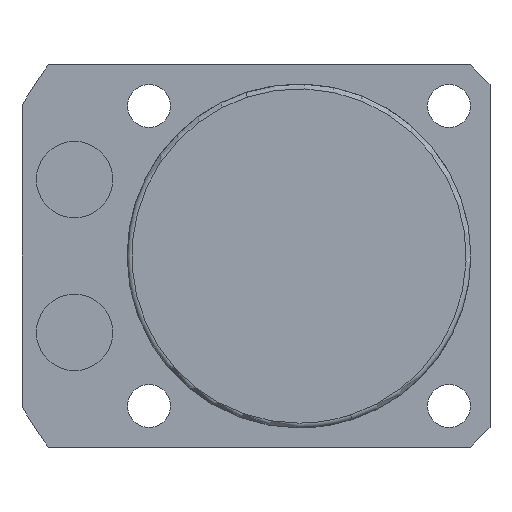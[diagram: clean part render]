
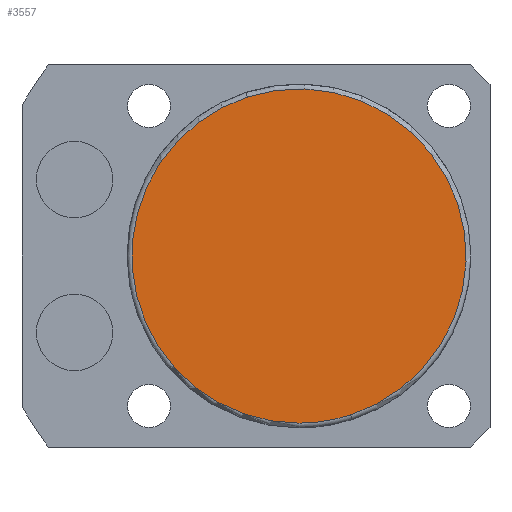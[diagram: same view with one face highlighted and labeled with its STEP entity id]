
A CAD part, front view. The second image highlights one B-rep face of the part: STEP entity #3557.
In plain terms, the highlighted planar face has unit normal (0, -1, 0).
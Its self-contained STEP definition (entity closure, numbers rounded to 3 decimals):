
#3490=CARTESIAN_POINT('',(5.408,-35.5,-16.643));
#3491=VERTEX_POINT('',#3490);
#3509=CARTESIAN_POINT('',(-5.408,-35.5,16.643));
#3510=VERTEX_POINT('',#3509);
#3518=CARTESIAN_POINT('',(0.0,-35.5,0.0));
#3519=DIRECTION('',(0.0,-1.0,0.0));
#3520=DIRECTION('',(0.0,0.0,-1.0));
#3521=AXIS2_PLACEMENT_3D('',#3518,#3519,#3520);
#3522=CIRCLE('',#3521,17.5);
#3523=EDGE_CURVE('no 3911',#3491,#3510,#3522,.T.);
#3533=CARTESIAN_POINT('',(0.0,-35.5,-17.5));
#3534=VERTEX_POINT('',#3533);
#3535=CARTESIAN_POINT('',(0.0,-35.5,0.0));
#3536=DIRECTION('',(0.0,-1.0,0.0));
#3537=DIRECTION('',(0.0,0.0,-1.0));
#3538=AXIS2_PLACEMENT_3D('',#3535,#3536,#3537);
#3539=CIRCLE('',#3538,17.5);
#3540=EDGE_CURVE('no 3920',#3534,#3491,#3539,.T.);
#3541=ORIENTED_EDGE('',*,*,#3540,.T.);
#3542=ORIENTED_EDGE('',*,*,#3523,.T.);
#3543=CARTESIAN_POINT('',(0.0,-35.5,0.0));
#3544=DIRECTION('',(0.0,-1.0,0.0));
#3545=DIRECTION('',(0.0,0.0,-1.0));
#3546=AXIS2_PLACEMENT_3D('',#3543,#3544,#3545);
#3547=CIRCLE('',#3546,17.5);
#3548=EDGE_CURVE('no 3926',#3510,#3534,#3547,.T.);
#3549=ORIENTED_EDGE('',*,*,#3548,.T.);
#3550=EDGE_LOOP('',(#3541,#3542,#3549));
#3551=FACE_OUTER_BOUND('',#3550,.T.);
#3552=CARTESIAN_POINT('',(0.0,-35.5,0.0));
#3553=DIRECTION('',(0.0,-1.0,0.0));
#3554=DIRECTION('',(0.0,0.0,-1.0));
#3555=AXIS2_PLACEMENT_3D('',#3552,#3553,#3554);
#3556=PLANE('',#3555);
#3557=ADVANCED_FACE('no 3913',(#3551),#3556,.T.);
